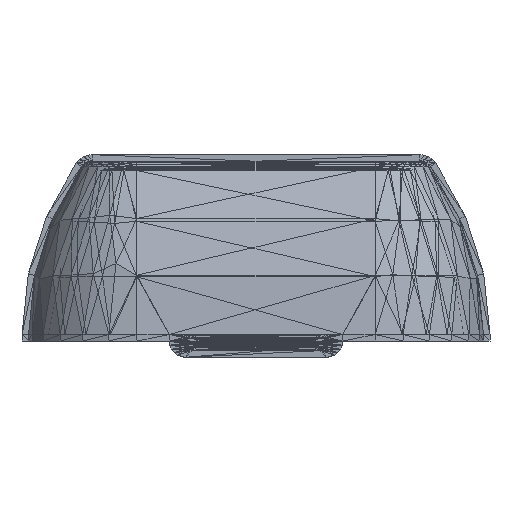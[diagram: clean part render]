
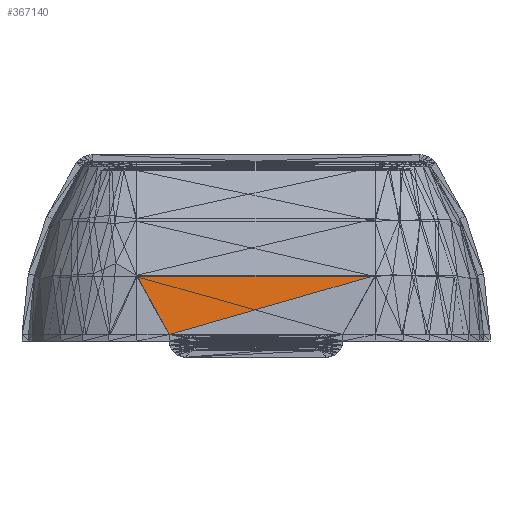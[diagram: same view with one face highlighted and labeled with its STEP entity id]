
A CAD part, front view. The second image highlights one B-rep face of the part: STEP entity #367140.
In plain terms, the highlighted planar face has unit normal (0, 0.995, -0.102).
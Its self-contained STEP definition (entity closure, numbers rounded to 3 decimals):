
#26130 = VERTEX_POINT('',#26131);
#26131 = CARTESIAN_POINT('',(1503.552,4.303,
    37.82));
#365564 = PLANE('',#365565);
#365565 = AXIS2_PLACEMENT_3D('',#365566,#365567,#365568);
#365566 = CARTESIAN_POINT('',(1454.574,6.631,
    45.17));
#365567 = DIRECTION('',(0.,-0.953,
    0.302));
#365568 = DIRECTION('',(0.,-0.302,-0.953));
#366345 = VERTEX_POINT('',#366346);
#366346 = CARTESIAN_POINT('',(1393.552,4.303,
    37.82));
#366554 = PLANE('',#366555);
#366555 = AXIS2_PLACEMENT_3D('',#366556,#366557,#366558);
#366556 = CARTESIAN_POINT('',(1398.259,2.616,
    21.382));
#366557 = DIRECTION('',(0.,-0.995,
    0.102));
#366558 = DIRECTION('',(0.,-0.102,-0.995));
#366601 = VERTEX_POINT('',#366602);
#366602 = CARTESIAN_POINT('',(1408.552,1.5,
    10.5));
#367042 = EDGE_CURVE('',#366345,#366601,#367043,.T.);
#367043 = SURFACE_CURVE('',#367044,(#367048,#367054),.PCURVE_S1.);
#367044 = LINE('',#367045,#367046);
#367045 = CARTESIAN_POINT('',(1393.552,4.303,
    37.82));
#367046 = VECTOR('',#367047,1.);
#367047 = DIRECTION('',(0.479,-0.09,
    -0.873));
#367048 = PCURVE('',#366554,#367049);
#367049 = DEFINITIONAL_REPRESENTATION('',(#367050),#367053);
#367050 = B_SPLINE_CURVE_WITH_KNOTS('',1,(#367051,#367052),
  .UNSPECIFIED.,.F.,.F.,(2,2),(0.,31.293),
  .PIECEWISE_BEZIER_KNOTS.);
#367051 = CARTESIAN_POINT('',(-16.524,-4.707));
#367052 = CARTESIAN_POINT('',(10.939,10.293));
#367053 = ( GEOMETRIC_REPRESENTATION_CONTEXT(2) 
PARAMETRIC_REPRESENTATION_CONTEXT() REPRESENTATION_CONTEXT('2D SPACE',''
  ) );
#367054 = PCURVE('',#367055,#367060);
#367055 = PLANE('',#367056);
#367056 = AXIS2_PLACEMENT_3D('',#367057,#367058,#367059);
#367057 = CARTESIAN_POINT('',(1445.451,3.543,
    30.416));
#367058 = DIRECTION('',(0.,-0.995,
    0.102));
#367059 = DIRECTION('',(0.,-0.102,-0.995));
#367060 = DEFINITIONAL_REPRESENTATION('',(#367061),#367065);
#367061 = LINE('',#367062,#367063);
#367062 = CARTESIAN_POINT('',(-7.443,-51.899));
#367063 = VECTOR('',#367064,1.);
#367064 = DIRECTION('',(0.878,0.479));
#367065 = ( GEOMETRIC_REPRESENTATION_CONTEXT(2) 
PARAMETRIC_REPRESENTATION_CONTEXT() REPRESENTATION_CONTEXT('2D SPACE',''
  ) );
#367078 = PLANE('',#367079);
#367079 = AXIS2_PLACEMENT_3D('',#367080,#367081,#367082);
#367080 = CARTESIAN_POINT('',(1459.153,2.368,
    18.961));
#367081 = DIRECTION('',(0.,-0.995,
    0.102));
#367082 = DIRECTION('',(0.,-0.102,
    -0.995));
#367121 = EDGE_CURVE('',#26130,#366601,#367122,.T.);
#367122 = SURFACE_CURVE('',#367123,(#367127,#367134),.PCURVE_S1.);
#367123 = LINE('',#367124,#367125);
#367124 = CARTESIAN_POINT('',(1503.552,4.303,
    37.82));
#367125 = VECTOR('',#367126,1.);
#367126 = DIRECTION('',(-0.961,-0.028,
    -0.276));
#367127 = PCURVE('',#367078,#367128);
#367128 = DEFINITIONAL_REPRESENTATION('',(#367129),#367133);
#367129 = LINE('',#367130,#367131);
#367130 = CARTESIAN_POINT('',(-18.958,44.399));
#367131 = VECTOR('',#367132,1.);
#367132 = DIRECTION('',(0.278,-0.961));
#367133 = ( GEOMETRIC_REPRESENTATION_CONTEXT(2) 
PARAMETRIC_REPRESENTATION_CONTEXT() REPRESENTATION_CONTEXT('2D SPACE',''
  ) );
#367134 = PCURVE('',#367055,#367135);
#367135 = DEFINITIONAL_REPRESENTATION('',(#367136),#367139);
#367136 = B_SPLINE_CURVE_WITH_KNOTS('',1,(#367137,#367138),
  .UNSPECIFIED.,.F.,.F.,(2,2),(0.,98.89),
  .PIECEWISE_BEZIER_KNOTS.);
#367137 = CARTESIAN_POINT('',(-7.443,58.101));
#367138 = CARTESIAN_POINT('',(20.021,-36.899));
#367139 = ( GEOMETRIC_REPRESENTATION_CONTEXT(2) 
PARAMETRIC_REPRESENTATION_CONTEXT() REPRESENTATION_CONTEXT('2D SPACE',''
  ) );
#367140 = ADVANCED_FACE('',(#367141),#367055,.F.);
#367141 = FACE_BOUND('',#367142,.F.);
#367142 = EDGE_LOOP('',(#367143,#367144,#367145));
#367143 = ORIENTED_EDGE('',*,*,#367042,.T.);
#367144 = ORIENTED_EDGE('',*,*,#367121,.F.);
#367145 = ORIENTED_EDGE('',*,*,#367146,.T.);
#367146 = EDGE_CURVE('',#26130,#366345,#367147,.T.);
#367147 = SURFACE_CURVE('',#367148,(#367152,#367159),.PCURVE_S1.);
#367148 = LINE('',#367149,#367150);
#367149 = CARTESIAN_POINT('',(1503.552,4.303,
    37.82));
#367150 = VECTOR('',#367151,1.);
#367151 = DIRECTION('',(-1.,0.,0.));
#367152 = PCURVE('',#367055,#367153);
#367153 = DEFINITIONAL_REPRESENTATION('',(#367154),#367158);
#367154 = LINE('',#367155,#367156);
#367155 = CARTESIAN_POINT('',(-7.443,58.101));
#367156 = VECTOR('',#367157,1.);
#367157 = DIRECTION('',(0.,-1.));
#367158 = ( GEOMETRIC_REPRESENTATION_CONTEXT(2) 
PARAMETRIC_REPRESENTATION_CONTEXT() REPRESENTATION_CONTEXT('2D SPACE',''
  ) );
#367159 = PCURVE('',#365564,#367160);
#367160 = DEFINITIONAL_REPRESENTATION('',(#367161),#367164);
#367161 = B_SPLINE_CURVE_WITH_KNOTS('',1,(#367162,#367163),
  .UNSPECIFIED.,.F.,.F.,(2,2),(0.,110.),.PIECEWISE_BEZIER_KNOTS.);
#367162 = CARTESIAN_POINT('',(7.71,48.978));
#367163 = CARTESIAN_POINT('',(7.71,-61.022));
#367164 = ( GEOMETRIC_REPRESENTATION_CONTEXT(2) 
PARAMETRIC_REPRESENTATION_CONTEXT() REPRESENTATION_CONTEXT('2D SPACE',''
  ) );
